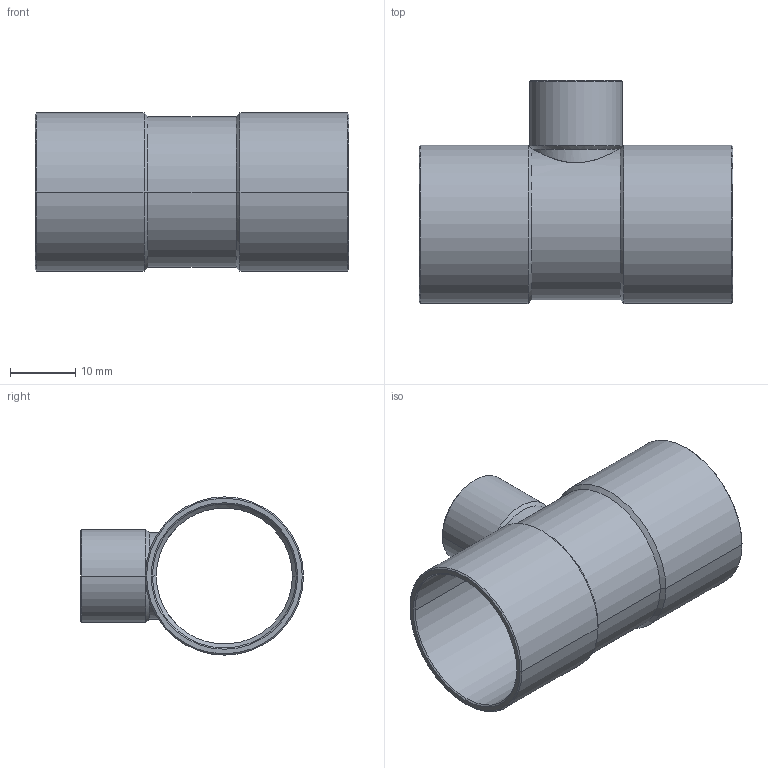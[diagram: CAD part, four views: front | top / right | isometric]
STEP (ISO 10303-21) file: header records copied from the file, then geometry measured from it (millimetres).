
FILE_DESCRIPTION((''),'2;1');
FILE_NAME('P:\Bouwmaten\z-maattekeningen 3D\5000\5130\5130221222.stp','2005-10-26T11:53:40',('Kris'),(''),'Autodesk Inventor 8','Autodesk Inventor 8','');
FILE_SCHEMA(('AUTOMOTIVE_DESIGN { 1 0 10303 214 1 1 1 1 }'));
Length unit declared in the file: millimetre
Products named in the file (1): 5130221222
Bounding box: 48 x 34.1 x 24.2 mm (x, y, z)
Volume: 4136.1 mm3; surface area: 7828.1 mm2
Topology: 1 solids, 1 shells, 49 faces, 114 edges, 66 vertices
Faces by surface type: cone 20, cylinder 16, bspline 10, plane 3
Entity records: 2077 total; most frequent: CARTESIAN_POINT 983, ORIENTED_EDGE 228, DIRECTION 218, EDGE_CURVE 114, AXIS2_PLACEMENT_3D 89, VERTEX_POINT 66, EDGE_LOOP 52, CIRCLE 49
